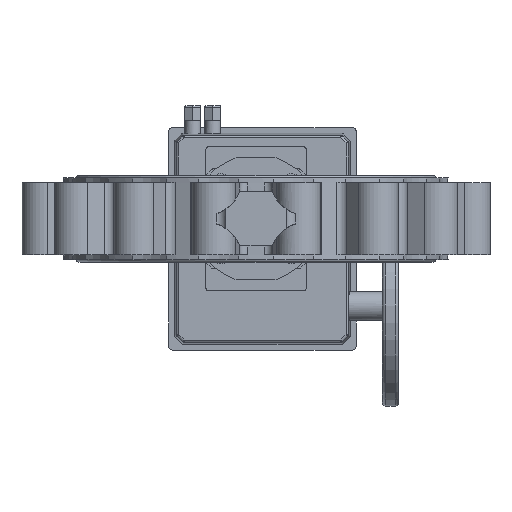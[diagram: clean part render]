
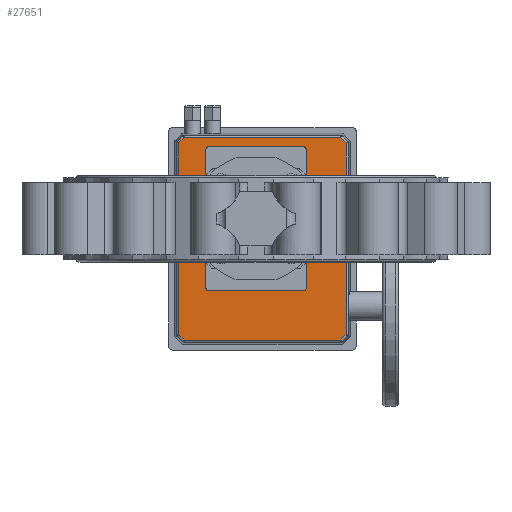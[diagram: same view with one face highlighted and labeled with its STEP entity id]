
A CAD part, front view. The second image highlights one B-rep face of the part: STEP entity #27651.
In plain terms, the highlighted planar face has unit normal (0, -1, 0).
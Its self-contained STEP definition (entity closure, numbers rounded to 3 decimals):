
#145 = EDGE_CURVE ( 'NONE', #5416, #30592, #13497, .T. ) ;
#206 = ORIENTED_EDGE ( 'NONE', *, *, #16609, .T. ) ;
#478 = ORIENTED_EDGE ( 'NONE', *, *, #145, .T. ) ;
#1022 = CARTESIAN_POINT ( 'NONE',  ( 87., -75., -62.5 ) ) ;
#1225 = CARTESIAN_POINT ( 'NONE',  ( -87., -75., 62.5 ) ) ;
#1279 = CARTESIAN_POINT ( 'NONE',  ( -101.484, -75., -89.715 ) ) ;
#1519 = DIRECTION ( 'NONE',  ( 0., 1., 0. ) ) ;
#1708 = VECTOR ( 'NONE', #22338, 1000. ) ;
#1849 = EDGE_LOOP ( 'NONE', ( #26691, #23820, #206, #13480, #32487, #478, #27838, #24286 ) ) ;
#2016 = DIRECTION ( 'NONE',  ( 0., 0., 1. ) ) ;
#2072 = DIRECTION ( 'NONE',  ( 1., 0., 0. ) ) ;
#2127 = VECTOR ( 'NONE', #11977, 1000. ) ;
#2742 = VECTOR ( 'NONE', #7662, 1000. ) ;
#2940 = ORIENTED_EDGE ( 'NONE', *, *, #7671, .T. ) ;
#3521 = EDGE_CURVE ( 'NONE', #8282, #30592, #30629, .T. ) ;
#3864 = ORIENTED_EDGE ( 'NONE', *, *, #18769, .T. ) ;
#3925 = EDGE_CURVE ( 'NONE', #20935, #29876, #15724, .T. ) ;
#4320 = DIRECTION ( 'NONE',  ( 0.707, 0., -0.707 ) ) ;
#5052 = CARTESIAN_POINT ( 'NONE',  ( 151.484, -75., 0. ) ) ;
#5416 = VERTEX_POINT ( 'NONE', #19159 ) ;
#5502 = EDGE_CURVE ( 'NONE', #19663, #6385, #7134, .T. ) ;
#5544 = DIRECTION ( 'NONE',  ( 0.707, 0., 0.707 ) ) ;
#5577 = CARTESIAN_POINT ( 'NONE',  ( -101.484, -75., 105.715 ) ) ;
#5604 = CARTESIAN_POINT ( 'NONE',  ( 0., -75., 0. ) ) ;
#5860 = AXIS2_PLACEMENT_3D ( 'NONE', #12551, #10045, #20387 ) ;
#6385 = VERTEX_POINT ( 'NONE', #31380 ) ;
#6799 = CARTESIAN_POINT ( 'NONE',  ( -90., -75., -59.5 ) ) ;
#6809 = CARTESIAN_POINT ( 'NONE',  ( -95.6, -75., -95.6 ) ) ;
#7134 = CIRCLE ( 'NONE', #32118, 3. ) ;
#7583 = DIRECTION ( 'NONE',  ( 0., 0., -1. ) ) ;
#7662 = DIRECTION ( 'NONE',  ( -0.707, 0., -0.707 ) ) ;
#7671 = EDGE_CURVE ( 'NONE', #21487, #25497, #9876, .T. ) ;
#7902 = CARTESIAN_POINT ( 'NONE',  ( 144.715, -75., 112.484 ) ) ;
#8001 = VERTEX_POINT ( 'NONE', #20332 ) ;
#8282 = VERTEX_POINT ( 'NONE', #28061 ) ;
#8366 = CARTESIAN_POINT ( 'NONE',  ( -90., -75., 0. ) ) ;
#8628 = CARTESIAN_POINT ( 'NONE',  ( -95.915, -75., 112.484 ) ) ;
#9876 = LINE ( 'NONE', #5052, #1708 ) ;
#10045 = DIRECTION ( 'NONE',  ( 0., 1., 0. ) ) ;
#10384 = CARTESIAN_POINT ( 'NONE',  ( 151.484, -75., 105.715 ) ) ;
#10398 = DIRECTION ( 'NONE',  ( 1., 0., 0. ) ) ;
#10649 = VECTOR ( 'NONE', #2072, 1000. ) ;
#10830 = VERTEX_POINT ( 'NONE', #30783 ) ;
#10982 = EDGE_CURVE ( 'NONE', #30046, #15798, #13456, .T. ) ;
#11178 = VECTOR ( 'NONE', #7583, 1000. ) ;
#11459 = ORIENTED_EDGE ( 'NONE', *, *, #10982, .T. ) ;
#11881 = DIRECTION ( 'NONE',  ( 0., 0., 1. ) ) ;
#11977 = DIRECTION ( 'NONE',  ( -0.707, 0., 0.707 ) ) ;
#12361 = EDGE_CURVE ( 'NONE', #8001, #23841, #16957, .T. ) ;
#12551 = CARTESIAN_POINT ( 'NONE',  ( -87., -75., 59.5 ) ) ;
#12668 = DIRECTION ( 'NONE',  ( 0., 1., 0. ) ) ;
#12706 = LINE ( 'NONE', #15206, #21264 ) ;
#13020 = DIRECTION ( 'NONE',  ( 0., 0., 1. ) ) ;
#13070 = ORIENTED_EDGE ( 'NONE', *, *, #3925, .T. ) ;
#13190 = ORIENTED_EDGE ( 'NONE', *, *, #28380, .T. ) ;
#13424 = VECTOR ( 'NONE', #28663, 1000. ) ;
#13456 = LINE ( 'NONE', #8628, #15552 ) ;
#13480 = ORIENTED_EDGE ( 'NONE', *, *, #5502, .T. ) ;
#13497 = CIRCLE ( 'NONE', #27820, 3. ) ;
#14116 = VERTEX_POINT ( 'NONE', #30703 ) ;
#15151 = DIRECTION ( 'NONE',  ( 1., 0., 0. ) ) ;
#15206 = CARTESIAN_POINT ( 'NONE',  ( 0., -75., -96.484 ) ) ;
#15552 = VECTOR ( 'NONE', #28939, 1000. ) ;
#15681 = AXIS2_PLACEMENT_3D ( 'NONE', #22332, #19208, #11881 ) ;
#15724 = LINE ( 'NONE', #25857, #11178 ) ;
#15798 = VERTEX_POINT ( 'NONE', #20197 ) ;
#16609 = EDGE_CURVE ( 'NONE', #26604, #19663, #19732, .T. ) ;
#16787 = EDGE_CURVE ( 'NONE', #8001, #26604, #28193, .T. ) ;
#16957 = LINE ( 'NONE', #8366, #13424 ) ;
#17052 = CARTESIAN_POINT ( 'NONE',  ( 87., -75., 62.5 ) ) ;
#17770 = FACE_BOUND ( 'NONE', #1849, .T. ) ;
#18146 = CARTESIAN_POINT ( 'NONE',  ( 151.484, -75., -89.715 ) ) ;
#18343 = EDGE_CURVE ( 'NONE', #15798, #20935, #20476, .T. ) ;
#18769 = EDGE_CURVE ( 'NONE', #14116, #10830, #12706, .T. ) ;
#19159 = CARTESIAN_POINT ( 'NONE',  ( 90., -75., -59.5 ) ) ;
#19208 = DIRECTION ( 'NONE',  ( 0., 1., 0. ) ) ;
#19663 = VERTEX_POINT ( 'NONE', #17052 ) ;
#19732 = LINE ( 'NONE', #29884, #10649 ) ;
#19853 = CARTESIAN_POINT ( 'NONE',  ( 90., -75., 0. ) ) ;
#20097 = EDGE_CURVE ( 'NONE', #6385, #5416, #24976, .T. ) ;
#20197 = CARTESIAN_POINT ( 'NONE',  ( -94.715, -75., 112.484 ) ) ;
#20332 = CARTESIAN_POINT ( 'NONE',  ( -90., -75., 59.5 ) ) ;
#20387 = DIRECTION ( 'NONE',  ( 0., 0., 1. ) ) ;
#20476 = LINE ( 'NONE', #30453, #2742 ) ;
#20725 = DIRECTION ( 'NONE',  ( 0., 0., 1. ) ) ;
#20935 = VERTEX_POINT ( 'NONE', #5577 ) ;
#21264 = VECTOR ( 'NONE', #10398, 1000. ) ;
#21487 = VERTEX_POINT ( 'NONE', #18146 ) ;
#22007 = DIRECTION ( 'NONE',  ( 0., 0., -1. ) ) ;
#22077 = ORIENTED_EDGE ( 'NONE', *, *, #29597, .T. ) ;
#22258 = LINE ( 'NONE', #6809, #23833 ) ;
#22332 = CARTESIAN_POINT ( 'NONE',  ( -87., -75., -59.5 ) ) ;
#22338 = DIRECTION ( 'NONE',  ( 0., 0., 1. ) ) ;
#22380 = EDGE_CURVE ( 'NONE', #10830, #21487, #25816, .T. ) ;
#23112 = CIRCLE ( 'NONE', #15681, 3. ) ;
#23289 = CARTESIAN_POINT ( 'NONE',  ( 87., -75., -59.5 ) ) ;
#23820 = ORIENTED_EDGE ( 'NONE', *, *, #16787, .T. ) ;
#23833 = VECTOR ( 'NONE', #4320, 1000. ) ;
#23841 = VERTEX_POINT ( 'NONE', #6799 ) ;
#23997 = ORIENTED_EDGE ( 'NONE', *, *, #22380, .T. ) ;
#24286 = ORIENTED_EDGE ( 'NONE', *, *, #25346, .T. ) ;
#24616 = VECTOR ( 'NONE', #5544, 1000. ) ;
#24621 = CARTESIAN_POINT ( 'NONE',  ( 128.6, -75., 128.6 ) ) ;
#24799 = CARTESIAN_POINT ( 'NONE',  ( 87., -75., 59.5 ) ) ;
#24976 = LINE ( 'NONE', #19853, #32577 ) ;
#25346 = EDGE_CURVE ( 'NONE', #8282, #23841, #23112, .T. ) ;
#25497 = VERTEX_POINT ( 'NONE', #10384 ) ;
#25664 = CARTESIAN_POINT ( 'NONE',  ( 120.6, -75., -120.6 ) ) ;
#25816 = LINE ( 'NONE', #25664, #24616 ) ;
#25857 = CARTESIAN_POINT ( 'NONE',  ( -101.484, -75., -90.915 ) ) ;
#26206 = DIRECTION ( 'NONE',  ( 0., 1., 0. ) ) ;
#26604 = VERTEX_POINT ( 'NONE', #1225 ) ;
#26691 = ORIENTED_EDGE ( 'NONE', *, *, #12361, .F. ) ;
#26753 = EDGE_LOOP ( 'NONE', ( #13070, #13190, #3864, #23997, #2940, #22077, #11459, #27801 ) ) ;
#27564 = FACE_OUTER_BOUND ( 'NONE', #26753, .T. ) ;
#27621 = CARTESIAN_POINT ( 'NONE',  ( 0., -75., -62.5 ) ) ;
#27651 = ADVANCED_FACE ( 'NONE', ( #27564, #17770 ), #27912, .F. ) ;
#27801 = ORIENTED_EDGE ( 'NONE', *, *, #18343, .T. ) ;
#27820 = AXIS2_PLACEMENT_3D ( 'NONE', #23289, #12668, #13020 ) ;
#27838 = ORIENTED_EDGE ( 'NONE', *, *, #3521, .F. ) ;
#27912 = PLANE ( 'NONE',  #31766 ) ;
#28061 = CARTESIAN_POINT ( 'NONE',  ( -87., -75., -62.5 ) ) ;
#28193 = CIRCLE ( 'NONE', #5860, 3. ) ;
#28380 = EDGE_CURVE ( 'NONE', #29876, #14116, #22258, .T. ) ;
#28663 = DIRECTION ( 'NONE',  ( 0., 0., -1. ) ) ;
#28687 = VECTOR ( 'NONE', #15151, 1000. ) ;
#28939 = DIRECTION ( 'NONE',  ( -1., 0., 0. ) ) ;
#29597 = EDGE_CURVE ( 'NONE', #25497, #30046, #32153, .T. ) ;
#29876 = VERTEX_POINT ( 'NONE', #1279 ) ;
#29884 = CARTESIAN_POINT ( 'NONE',  ( 0., -75., 62.5 ) ) ;
#30046 = VERTEX_POINT ( 'NONE', #7902 ) ;
#30453 = CARTESIAN_POINT ( 'NONE',  ( -102.332, -75., 104.867 ) ) ;
#30592 = VERTEX_POINT ( 'NONE', #1022 ) ;
#30629 = LINE ( 'NONE', #27621, #28687 ) ;
#30703 = CARTESIAN_POINT ( 'NONE',  ( -94.715, -75., -96.484 ) ) ;
#30783 = CARTESIAN_POINT ( 'NONE',  ( 144.715, -75., -96.484 ) ) ;
#31380 = CARTESIAN_POINT ( 'NONE',  ( 90., -75., 59.5 ) ) ;
#31766 = AXIS2_PLACEMENT_3D ( 'NONE', #5604, #26206, #20725 ) ;
#32118 = AXIS2_PLACEMENT_3D ( 'NONE', #24799, #1519, #2016 ) ;
#32153 = LINE ( 'NONE', #24621, #2127 ) ;
#32487 = ORIENTED_EDGE ( 'NONE', *, *, #20097, .T. ) ;
#32577 = VECTOR ( 'NONE', #22007, 1000. ) ;
